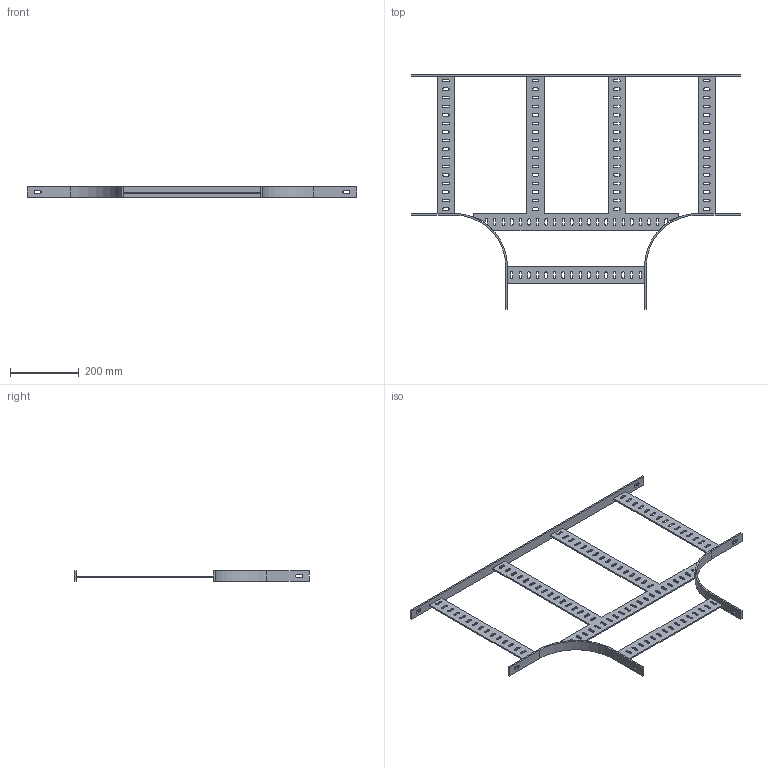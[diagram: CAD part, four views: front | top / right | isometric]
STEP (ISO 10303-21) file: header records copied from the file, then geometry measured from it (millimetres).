
FILE_DESCRIPTION(('Creo Elements/Direct Modeling STEP Export'),'2;1');
FILE_NAME('//pserver/office/EK/ME10-3D/3D-output/SLA 400F.stp','2020-03-10T15:07:55',(''),(''),'PTC Creo Elements/Direct Modeling STEP processor for AP214 (Solid Model)','PTC Creo Elements/Direct Modeling 19.0C 15-Aug-2015 (C) Parametric Technology GmbH','');
FILE_SCHEMA(('AUTOMOTIVE_DESIGN { 1 0 10303 214 1 1 1 1 }'));
Length unit declared in the file: millimetre
Products named in the file (1): SLA_400F
Bounding box: 960 x 685 x 30 mm (x, y, z)
Volume: 740889.4 mm3; surface area: 402150.7 mm2
Topology: 1 solids, 1 shells, 488 faces, 1457 edges, 972 vertices
Faces by surface type: plane 268, cylinder 220
Entity records: 16863 total; most frequent: ORIENTED_EDGE 2914, CARTESIAN_POINT 2897, DIRECTION 2850, EDGE_CURVE 1457, VECTOR 1000, LINE 1000, VERTEX_POINT 972, AXIS2_PLACEMENT_3D 925
